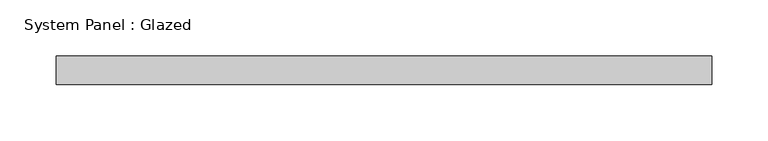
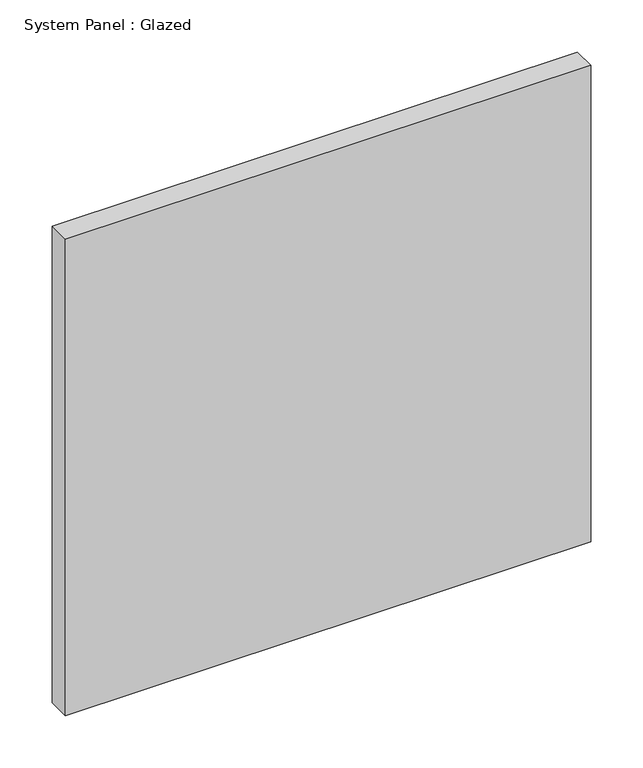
"""IFC4 building model written with IfcOpenShell, lengths in millimetres: plate geometry, System Panel : Glazed."""

from ifc_helpers import new_model, si_unit, origin, origin_with_axes, place, context, project, spatial, polyline, outline, extrude, source, transform, mapped, element, save


def system_panel_glazed_6d31934f(model_context):
    return source(origin(), model_context, "Body", "SweptSolid", [
        extrude(outline(polyline([(291.2809293, -12.7), (-291.2809293, -12.7), (-291.2809293, 12.7), (291.2809293, 12.7), (291.2809293, -12.7)])), origin_with_axes(), (0.0, 0.0, 1.0), 558.8),
    ])


if __name__ == "__main__":
    model = new_model("IFC4")
    model_context = context("Model", 3, world=origin())
    ifc_project = project(units=[si_unit("LENGTHUNIT", "METRE", prefix="MILLI")], contexts=[model_context])
    site = spatial("IfcSite", under=ifc_project)
    building = spatial("IfcBuilding", under=site)
    placement = place(None, origin())
    system_panel_glazed_shape = system_panel_glazed_6d31934f(model_context)
    element("IfcPlate", 1, ObjectType="System Panel : Glazed", at=placement, inside=building, context=model_context, shape_type="MappedRepresentation", body=[
        mapped(system_panel_glazed_shape, transform((0.0, 0.0, 0.0), x_axis=(1.0, 0.0, 0.0), y_axis=(0.0, 1.0, 0.0), z_axis=(0.0, 0.0, 1.0))),
    ])
    save(model, "model.ifc")
